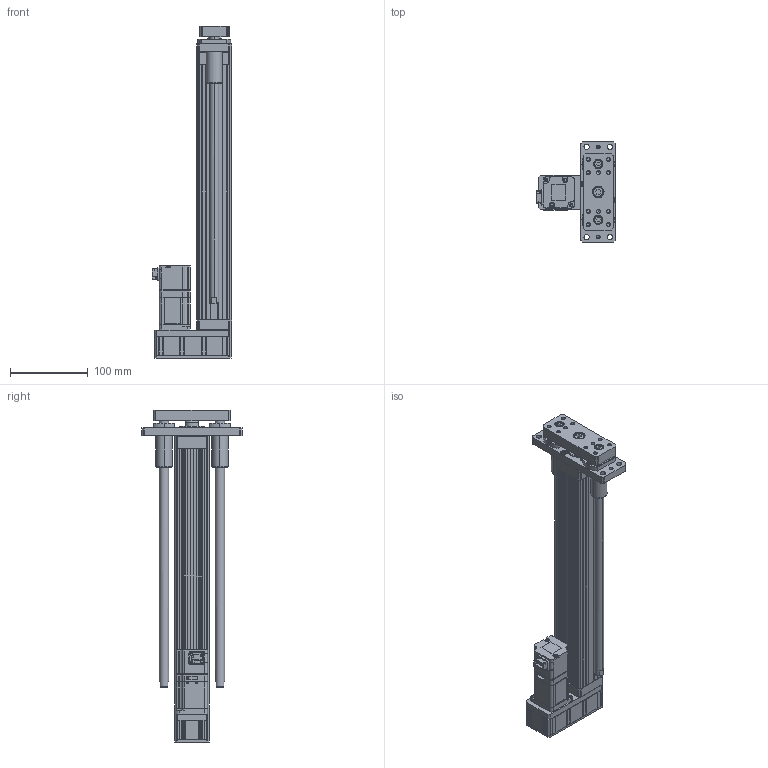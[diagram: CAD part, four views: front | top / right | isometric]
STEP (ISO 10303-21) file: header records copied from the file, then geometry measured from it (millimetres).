
FILE_DESCRIPTION (( 'STEP AP203' ), '1' );
FILE_NAME ('ANS045-GP250-05(10)-W10.STEP', '2019-02-14T03:12:36', ( 'user' ), ( '' ), 'SwSTEP 2.0', 'SolidWorks 2013', '' );
FILE_SCHEMA (( 'CONFIG_CONTROL_DESIGN' ));
Length unit declared in the file: millimetre
Products named in the file (4): ANS045 ROD ST250 G; SGMJV_01A_A21; ANS045-GP250-05(10)-W10; ANS045 GP250 VER2
Assembly tree (3 placements, depth 2):
  ANS045-GP250-05(10)-W10
    ANS045 GP250 VER2
    ANS045 ROD ST250 G
    SGMJV_01A_A21
Bounding box: 102.3 x 130 x 427.5 mm (x, y, z)
Volume: 876689.5 mm3; surface area: 286069.5 mm2
Topology: 3 solids, 23 shells, 1437 faces, 3610 edges, 2284 vertices
Faces by surface type: plane 766, cylinder 471, cone 194, torus 4, bspline 2
Entity records: 42978 total; most frequent: CARTESIAN_POINT 8067, DIRECTION 7202, ORIENTED_EDGE 7172, EDGE_CURVE 3586, AXIS2_PLACEMENT_3D 2403, LINE 2396, VECTOR 2396, VERTEX_POINT 2284
